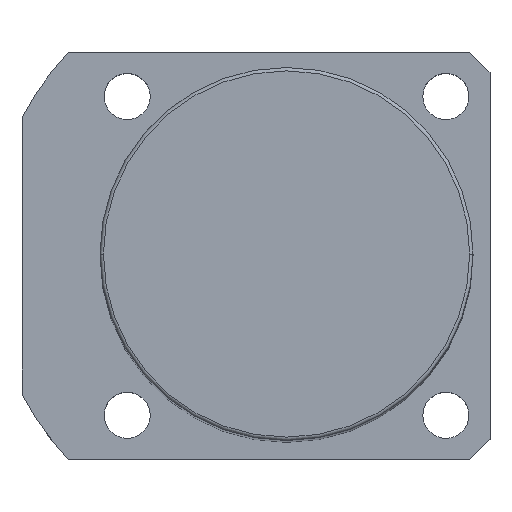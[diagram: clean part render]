
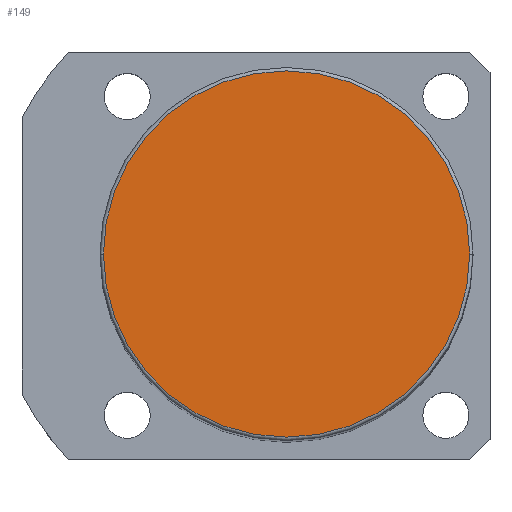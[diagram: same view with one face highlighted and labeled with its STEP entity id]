
A CAD part, top view. The second image highlights one B-rep face of the part: STEP entity #149.
In plain terms, the highlighted planar face has unit normal (0, 0, 1).
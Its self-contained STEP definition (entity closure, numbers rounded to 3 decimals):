
#35 = DIRECTION ( 'NONE',  ( 1., 0., 0. ) ) ;
#55 = CARTESIAN_POINT ( 'NONE',  ( 0., 0., 166. ) ) ;
#149 = ADVANCED_FACE ( 'NONE', ( #656 ), #1421, .T. ) ;
#181 = CARTESIAN_POINT ( 'NONE',  ( 0., 0., 166. ) ) ;
#231 = VERTEX_POINT ( 'NONE', #243 ) ;
#243 = CARTESIAN_POINT ( 'NONE',  ( 27., 0., 166. ) ) ;
#356 = EDGE_CURVE ( 'NONE', #1620, #231, #535, .T. ) ;
#358 = DIRECTION ( 'NONE',  ( 1., 0., 0. ) ) ;
#534 = CARTESIAN_POINT ( 'NONE',  ( -27., 0., 166. ) ) ;
#535 = CIRCLE ( 'NONE', #1617, 27. ) ;
#656 = FACE_OUTER_BOUND ( 'NONE', #945, .T. ) ;
#660 = CIRCLE ( 'NONE', #1068, 27. ) ;
#780 = DIRECTION ( 'NONE',  ( 0., 0., 1. ) ) ;
#945 = EDGE_LOOP ( 'NONE', ( #1538, #1456 ) ) ;
#947 = EDGE_CURVE ( 'NONE', #231, #1620, #660, .T. ) ;
#1068 = AXIS2_PLACEMENT_3D ( 'NONE', #1275, #1593, #1578 ) ;
#1169 = AXIS2_PLACEMENT_3D ( 'NONE', #55, #1268, #358 ) ;
#1268 = DIRECTION ( 'NONE',  ( 0., 0., 1. ) ) ;
#1275 = CARTESIAN_POINT ( 'NONE',  ( 0., 0., 166. ) ) ;
#1421 = PLANE ( 'NONE',  #1169 ) ;
#1456 = ORIENTED_EDGE ( 'NONE', *, *, #356, .T. ) ;
#1538 = ORIENTED_EDGE ( 'NONE', *, *, #947, .T. ) ;
#1578 = DIRECTION ( 'NONE',  ( 1., 0., 0. ) ) ;
#1593 = DIRECTION ( 'NONE',  ( 0., 0., 1. ) ) ;
#1617 = AXIS2_PLACEMENT_3D ( 'NONE', #181, #780, #35 ) ;
#1620 = VERTEX_POINT ( 'NONE', #534 ) ;
